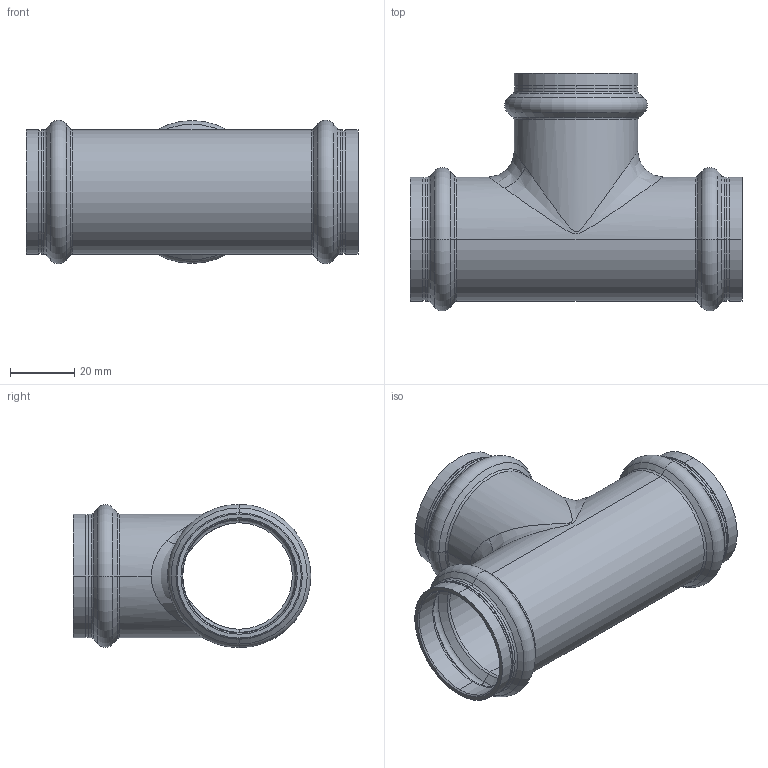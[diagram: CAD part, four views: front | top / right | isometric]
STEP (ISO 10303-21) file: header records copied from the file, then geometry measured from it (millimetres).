
FILE_DESCRIPTION (( 'STEP AP203' ), '1' );
FILE_NAME ('SP5130 Ø35.STEP', '2017-04-24T12:17:12', ( '' ), ( '' ), 'SwSTEP 2.0', 'SolidWorks 2016', '' );
FILE_SCHEMA (( 'CONFIG_CONTROL_DESIGN' ));
Length unit declared in the file: millimetre
Products named in the file (1): SP5130 ﾘ35
Bounding box: 103 x 73.75 x 44.5 mm (x, y, z)
Volume: 31191.7 mm3; surface area: 33111.4 mm2
Topology: 1 solids, 1 shells, 131 faces, 272 edges, 152 vertices
Faces by surface type: cylinder 43, torus 42, cone 30, plane 12, bspline 4
Entity records: 5121 total; most frequent: CARTESIAN_POINT 2184, DIRECTION 690, ORIENTED_EDGE 544, AXIS2_PLACEMENT_3D 310, EDGE_CURVE 272, CIRCLE 182, VERTEX_POINT 152, EDGE_LOOP 144
